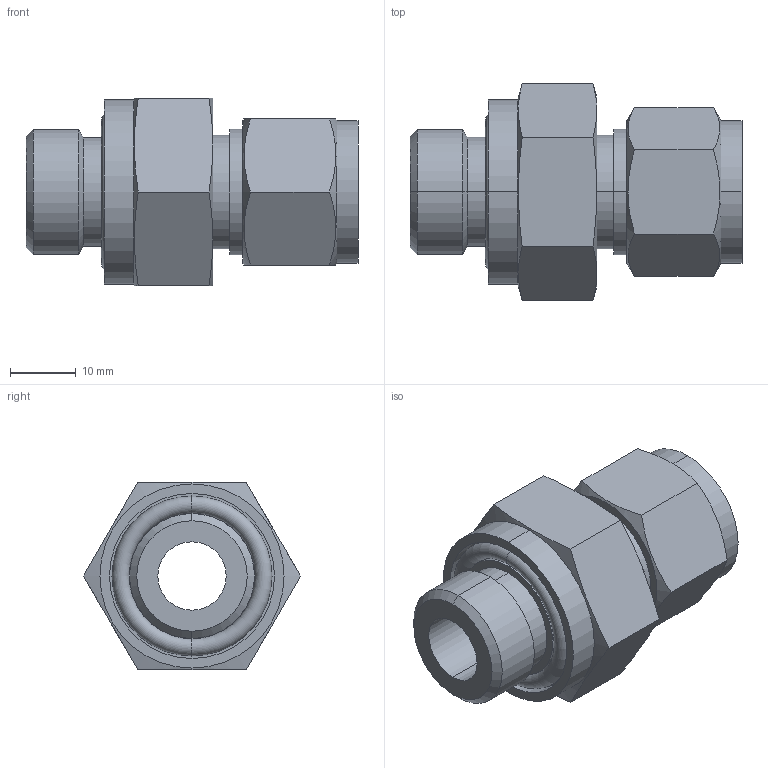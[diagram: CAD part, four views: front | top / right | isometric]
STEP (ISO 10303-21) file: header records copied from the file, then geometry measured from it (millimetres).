
FILE_DESCRIPTION (( 'STEP AP203' ), '1' );
FILE_NAME ('DCO08-08 SS.STEP', '2009-10-08T08:01:57', ( ' ' ), ( '' ), 'SwSTEP 2.0', 'SolidWorks 2008', '' );
FILE_SCHEMA (( 'CONFIG_CONTROL_DESIGN' ));
Length unit declared in the file: millimetre
Products named in the file (1): DCO08-08 SS
Bounding box: 50.5 x 33 x 28.58 mm (x, y, z)
Volume: 17454.2 mm3; surface area: 8126.3 mm2
Topology: 2 solids, 2 shells, 61 faces, 136 edges, 84 vertices
Faces by surface type: plane 21, cylinder 20, cone 16, torus 4
Entity records: 1947 total; most frequent: CARTESIAN_POINT 530, DIRECTION 282, ORIENTED_EDGE 272, EDGE_CURVE 136, AXIS2_PLACEMENT_3D 120, VERTEX_POINT 84, EDGE_LOOP 70, ADVANCED_FACE 61
